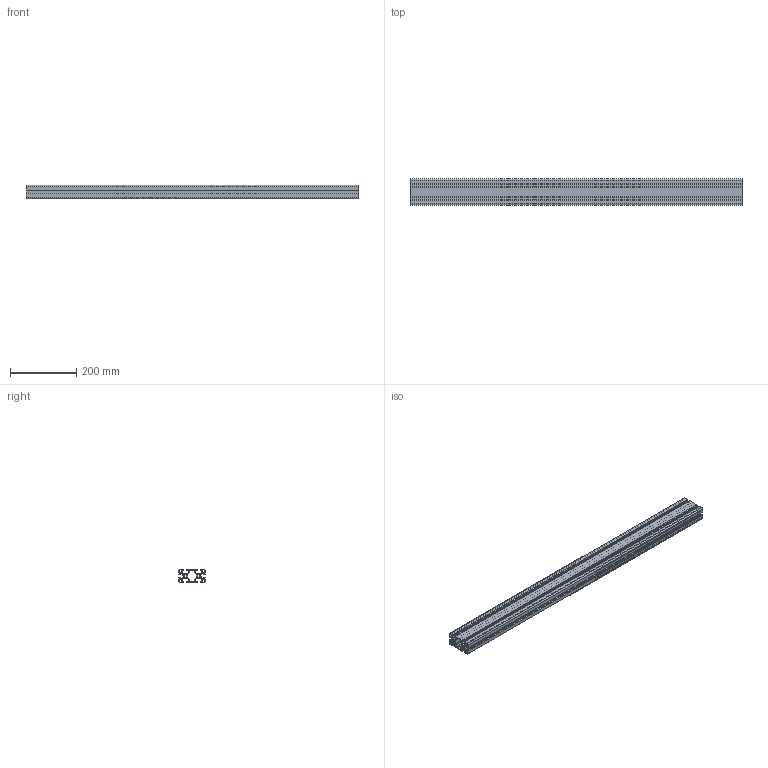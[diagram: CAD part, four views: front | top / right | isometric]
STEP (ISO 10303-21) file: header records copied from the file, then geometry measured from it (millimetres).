
FILE_DESCRIPTION (( 'STEP AP214' ), '1' );
FILE_NAME ('1.0185 40X80 musta 1000mm.STEP', '2026-03-13T08:56:41', ( '' ), ( '' ), 'SwSTEP 2.0', 'SolidWorks 2025', '' );
FILE_SCHEMA (( 'AUTOMOTIVE_DESIGN' ));
Length unit declared in the file: millimetre
Products named in the file (1): 1.0185 40X80 musta 1000mm
Bounding box: 1000 x 80 x 40 mm (x, y, z)
Volume: 1115752.8 mm3; surface area: 768315.6 mm2
Topology: 1 solids, 1 shells, 292 faces, 870 edges, 580 vertices
Faces by surface type: cylinder 150, plane 142
Entity records: 9945 total; most frequent: DIRECTION 1756, CARTESIAN_POINT 1743, ORIENTED_EDGE 1740, EDGE_CURVE 870, AXIS2_PLACEMENT_3D 593, VERTEX_POINT 580, LINE 570, VECTOR 570
